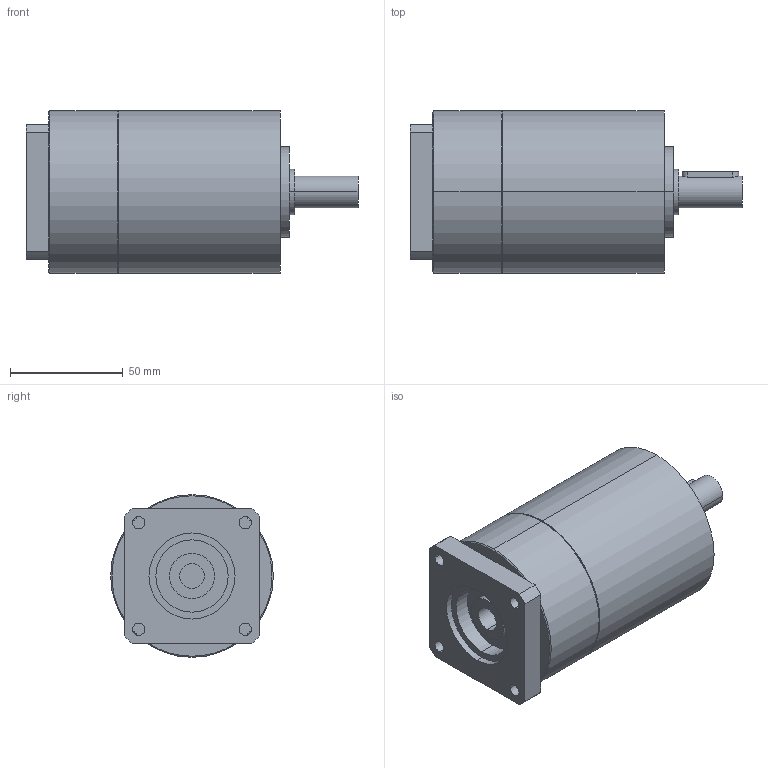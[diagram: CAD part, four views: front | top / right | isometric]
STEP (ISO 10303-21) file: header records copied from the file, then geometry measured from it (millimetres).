
FILE_DESCRIPTION(('CoCreate Modeling STEP Export'),'2;1');
FILE_NAME('GPT75_ig-9-12-16-20-25-28-35-40-50-70-100_14_B14T_11_P02.stp','2014-08-27T13:08:22',(''),(''),'CoCreate Modeling STEP processor for AP214 (Solid Model)','CoCreate Modeling 16.00C 25-Feb-2009 (C) Parametric Technology GmbH','');
FILE_SCHEMA(('AUTOMOTIVE_DESIGN { 1 0 10303 214 1 1 1 1 }'));
Length unit declared in the file: millimetre
Products named in the file (2): GPT75_ig-9-12-16-20-25-28-35-40-50-70-100_14_B14T_11_P02
Assembly tree (1 placements, depth 2):
  GPT75_ig-9-12-16-20-25-28-35-40-50-70-100_14_B14T_11_P02
    GPT75_ig-9-12-16-20-25-28-35-40-50-70-100_14_B14T_11_P02
Bounding box: 147 x 72 x 72 mm (x, y, z)
Volume: 450448.4 mm3; surface area: 40009.5 mm2
Topology: 1 solids, 1 shells, 80 faces, 198 edges, 129 vertices
Faces by surface type: cylinder 42, plane 34, cone 4
Entity records: 2353 total; most frequent: CARTESIAN_POINT 689, ORIENTED_EDGE 396, DIRECTION 276, EDGE_CURVE 198, VERTEX_POINT 129, AXIS2_PLACEMENT_3D 104, EDGE_LOOP 97, FACE_OUTER_BOUND 80
